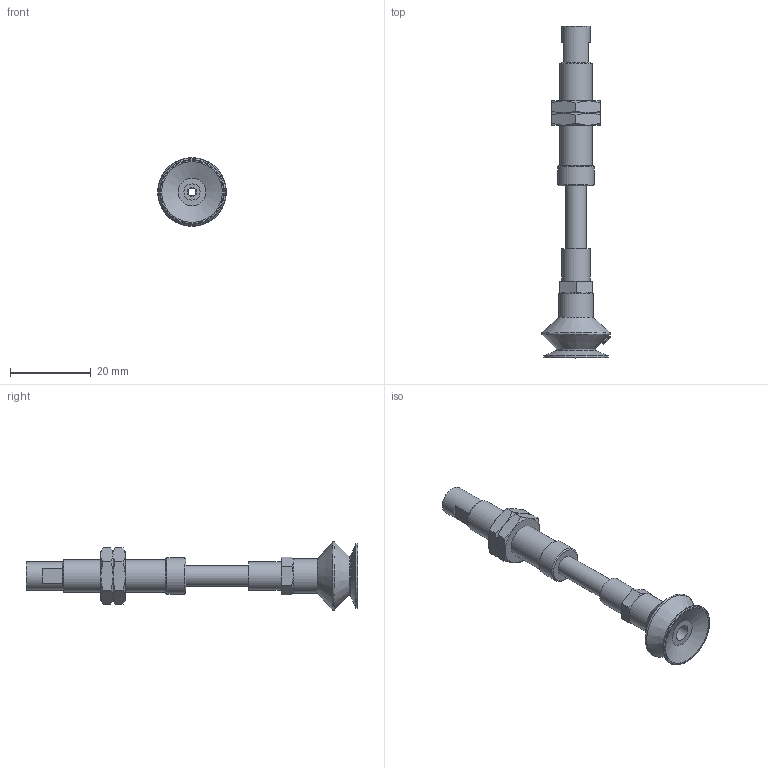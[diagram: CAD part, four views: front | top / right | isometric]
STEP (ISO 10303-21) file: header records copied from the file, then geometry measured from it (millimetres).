
FILE_DESCRIPTION(('STEP AP203'),'1');
FILE_NAME('-SPE.stp','2025-04-02T02:51:21',(' '),(' '),'Spatial InterOp 3D',' ',' ');
FILE_SCHEMA(('CONFIG_CONTROL_DESIGN'));
Length unit declared in the file: millimetre
Products named in the file (11): BNABPBTS-15A-15-※-SPE; NUT; BODY; STOPPER; ZIG; TN-PS-10-M5; Setting screws-TN-PS-10-M5; BPBG-15A-※; __27; BPBG-15A
Assembly tree (10 placements, depth 3):
  BNABPBTS-15A-15-※-SPE
    NUT
    NUT
    BODY
    STOPPER
    ZIG
    TN-PS-10-M5
      Setting screws-TN-PS-10-M5
    BPBG-15A-※
      __27
      BPBG-15A
Bounding box: 17 x 82 x 17 mm (x, y, z)
Volume: 4188.5 mm3; surface area: 5435.4 mm2
Topology: 8 solids, 8 shells, 159 faces, 336 edges, 207 vertices
Faces by surface type: plane 62, cone 52, cylinder 27, torus 10, bspline 8
Full cylindrical faces by diameter (mm): 2 x2, 3.4 x1, 3.5 x1, 3.9 x1, 4 x6, 4.2 x2, 5 x3, 5.2 x1, 6 x2, 7 x2, 7.25 x2, 8 x1, 8.5 x1, 9 x1, 16 x1
Entity records: 5549 total; most frequent: CARTESIAN_POINT 1986, DIRECTION 633, ORIENTED_EDGE 522, AXIS2_PLACEMENT_3D 285, EDGE_CURVE 261, EDGE_LOOP 243, FACE_OUTER_BOUND 196, VERTEX_POINT 188
